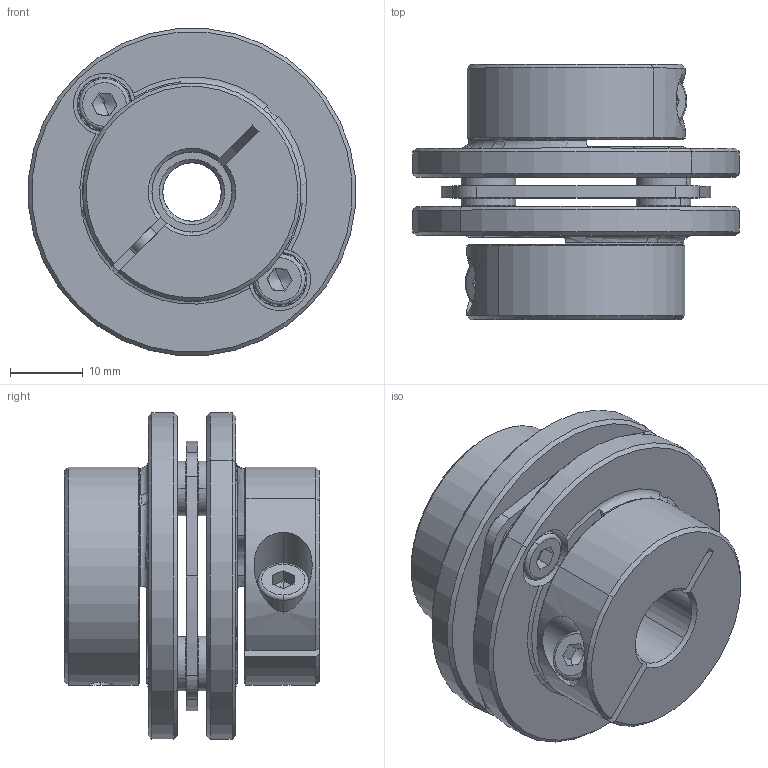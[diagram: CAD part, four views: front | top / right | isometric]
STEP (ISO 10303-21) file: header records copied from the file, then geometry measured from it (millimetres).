
FILE_DESCRIPTION (( 'STEP AP203' ), '1' );
FILE_NAME ('LE1-B-D45L35-8-11.STEP', '2021-11-01T03:05:20', ( '' ), ( '' ), 'SwSTEP 2.0', 'SolidWorks 2018', '' );
FILE_SCHEMA (( 'CONFIG_CONTROL_DESIGN' ));
Length unit declared in the file: millimetre
Products named in the file (1): LE1-B-D45L35-8-11
Bounding box: 44.83 x 35 x 44.83 mm (x, y, z)
Volume: 26233 mm3; surface area: 15903.4 mm2
Topology: 1 solids, 13 shells, 405 faces, 991 edges, 614 vertices
Faces by surface type: plane 136, cylinder 135, cone 114, torus 18, bspline 2
Entity records: 12432 total; most frequent: CARTESIAN_POINT 2479, DIRECTION 2247, ORIENTED_EDGE 1958, EDGE_CURVE 979, AXIS2_PLACEMENT_3D 914, VERTEX_POINT 614, CIRCLE 510, EDGE_LOOP 469
